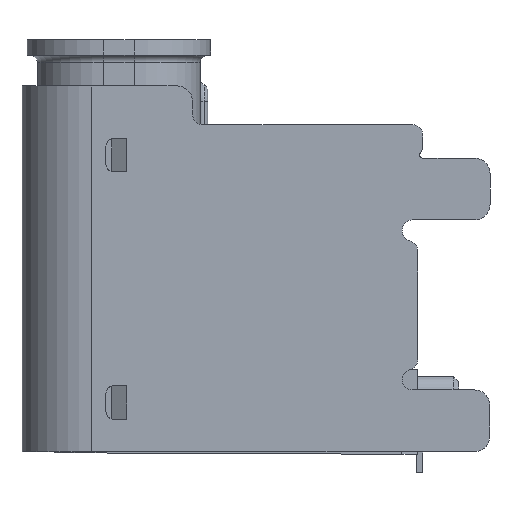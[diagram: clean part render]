
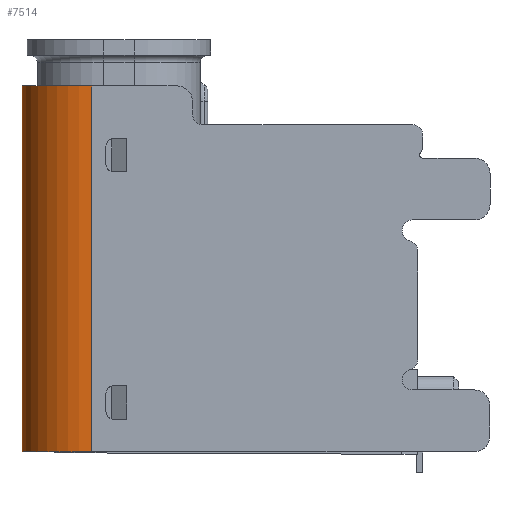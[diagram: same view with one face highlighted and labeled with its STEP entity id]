
A CAD part, left-side view. The second image highlights one B-rep face of the part: STEP entity #7514.
In plain terms, the highlighted cylindrical face has radius 1.35 mm (diameter 2.7 mm), a partial arc.
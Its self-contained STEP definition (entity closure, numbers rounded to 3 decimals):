
#426 = LINE ( 'NONE', #44456, #40578 ) ;
#955 = ORIENTED_EDGE ( 'NONE', *, *, #35054, .T. ) ;
#3748 = DIRECTION ( 'NONE',  ( 1., 0., 0. ) ) ;
#4033 = DIRECTION ( 'NONE',  ( -1., 0., 0. ) ) ;
#5605 = VECTOR ( 'NONE', #10393, 1000. ) ;
#6234 = CARTESIAN_POINT ( 'NONE',  ( -3.223, 1.909, -0.633 ) ) ;
#7514 = ADVANCED_FACE ( 'NONE', ( #43363 ), #30834, .T. ) ;
#9436 = CIRCLE ( 'NONE', #31890, 1.35 ) ;
#10393 = DIRECTION ( 'NONE',  ( 0., 0., -1. ) ) ;
#15476 = DIRECTION ( 'NONE',  ( 0., 0., 1. ) ) ;
#15869 = EDGE_CURVE ( 'NONE', #48626, #35137, #426, .T. ) ;
#17561 = ORIENTED_EDGE ( 'NONE', *, *, #15869, .T. ) ;
#18859 = ORIENTED_EDGE ( 'NONE', *, *, #38223, .F. ) ;
#19592 = EDGE_CURVE ( 'NONE', #48626, #41228, #47729, .T. ) ;
#20227 = CARTESIAN_POINT ( 'NONE',  ( -3.223, 1.909, -7.733 ) ) ;
#21534 = AXIS2_PLACEMENT_3D ( 'NONE', #50653, #15476, #3748 ) ;
#22827 = DIRECTION ( 'NONE',  ( 0., 1., 0. ) ) ;
#24380 = CARTESIAN_POINT ( 'NONE',  ( -4.573, 0.559, -0.633 ) ) ;
#28274 = DIRECTION ( 'NONE',  ( 0., 0., -1. ) ) ;
#30834 = CYLINDRICAL_SURFACE ( 'NONE', #21534, 1.35 ) ;
#31890 = AXIS2_PLACEMENT_3D ( 'NONE', #39743, #35833, #22827 ) ;
#34559 = ORIENTED_EDGE ( 'NONE', *, *, #19592, .F. ) ;
#35054 = EDGE_CURVE ( 'NONE', #51016, #41228, #50258, .T. ) ;
#35137 = VERTEX_POINT ( 'NONE', #24380 ) ;
#35553 = CARTESIAN_POINT ( 'NONE',  ( -3.223, 0.559, -7.733 ) ) ;
#35833 = DIRECTION ( 'NONE',  ( 0., 0., 1. ) ) ;
#38223 = EDGE_CURVE ( 'NONE', #51016, #35137, #9436, .T. ) ;
#39743 = CARTESIAN_POINT ( 'NONE',  ( -3.223, 0.559, -0.633 ) ) ;
#40578 = VECTOR ( 'NONE', #47318, 1000. ) ;
#40809 = CARTESIAN_POINT ( 'NONE',  ( -3.223, 1.909, -0.633 ) ) ;
#41228 = VERTEX_POINT ( 'NONE', #20227 ) ;
#43363 = FACE_OUTER_BOUND ( 'NONE', #48960, .T. ) ;
#44456 = CARTESIAN_POINT ( 'NONE',  ( -4.573, 0.559, -7.733 ) ) ;
#46852 = AXIS2_PLACEMENT_3D ( 'NONE', #35553, #28274, #4033 ) ;
#47297 = CARTESIAN_POINT ( 'NONE',  ( -4.573, 0.559, -7.733 ) ) ;
#47318 = DIRECTION ( 'NONE',  ( 0., 0., 1. ) ) ;
#47729 = CIRCLE ( 'NONE', #46852, 1.35 ) ;
#48626 = VERTEX_POINT ( 'NONE', #47297 ) ;
#48960 = EDGE_LOOP ( 'NONE', ( #34559, #17561, #18859, #955 ) ) ;
#50258 = LINE ( 'NONE', #6234, #5605 ) ;
#50653 = CARTESIAN_POINT ( 'NONE',  ( -3.223, 0.559, -0.783 ) ) ;
#51016 = VERTEX_POINT ( 'NONE', #40809 ) ;
